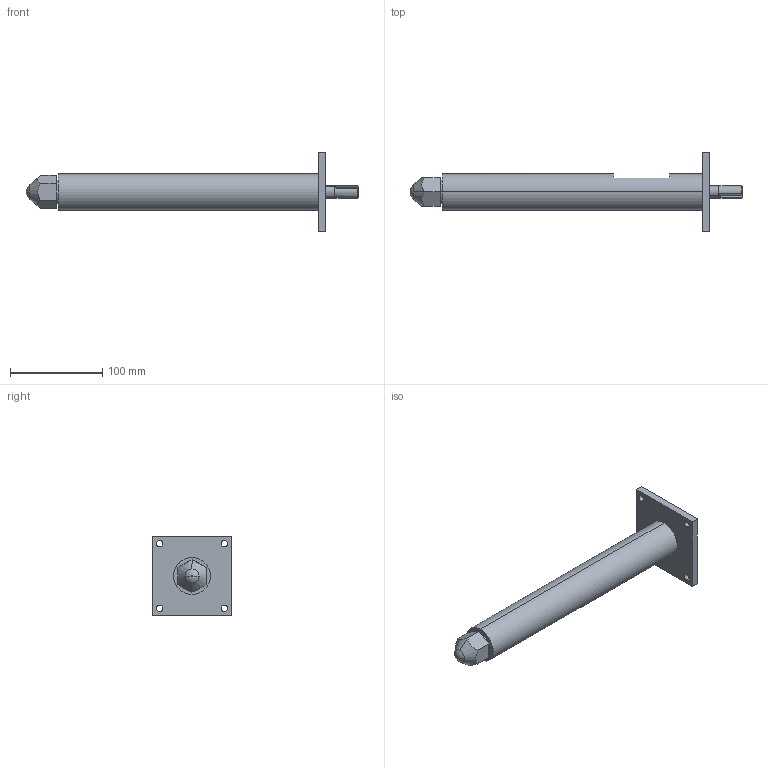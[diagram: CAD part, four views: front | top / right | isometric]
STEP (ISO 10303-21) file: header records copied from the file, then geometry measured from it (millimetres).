
FILE_DESCRIPTION (( 'STEP AP203' ), '1' );
FILE_NAME ('M30装配图.STEP', '2021-03-31T15:11:16', ( '微软用户' ), ( '微软中国' ), 'SwSTEP 2.0', 'SolidWorks 2013', '' );
FILE_SCHEMA (( 'CONFIG_CONTROL_DESIGN' ));
Length unit declared in the file: millimetre
Products named in the file (4): M30X2蹟邡芛; 蹟裝 2- 萵掛; 杶芠1; M30蚾饜芞
Assembly tree (3 placements, depth 2):
  M30蚾饜芞
    杶芠1
    蹟裝 2- 萵掛
    M30X2蹟邡芛
Bounding box: 359.96 x 86 x 86 mm (x, y, z)
Volume: 378486.2 mm3; surface area: 103110.1 mm2
Topology: 3 solids, 3 shells, 165 faces, 442 edges, 287 vertices
Faces by surface type: cylinder 94, plane 29, cone 28, bspline 9, sphere 5
Entity records: 14748 total; most frequent: CARTESIAN_POINT 10612, ORIENTED_EDGE 882, DIRECTION 673, EDGE_CURVE 441, VERTEX_POINT 287, AXIS2_PLACEMENT_3D 257, EDGE_LOOP 192, FACE_OUTER_BOUND 165
